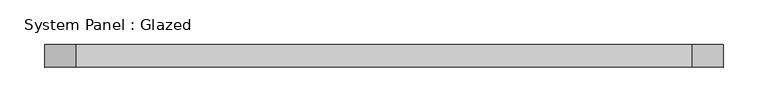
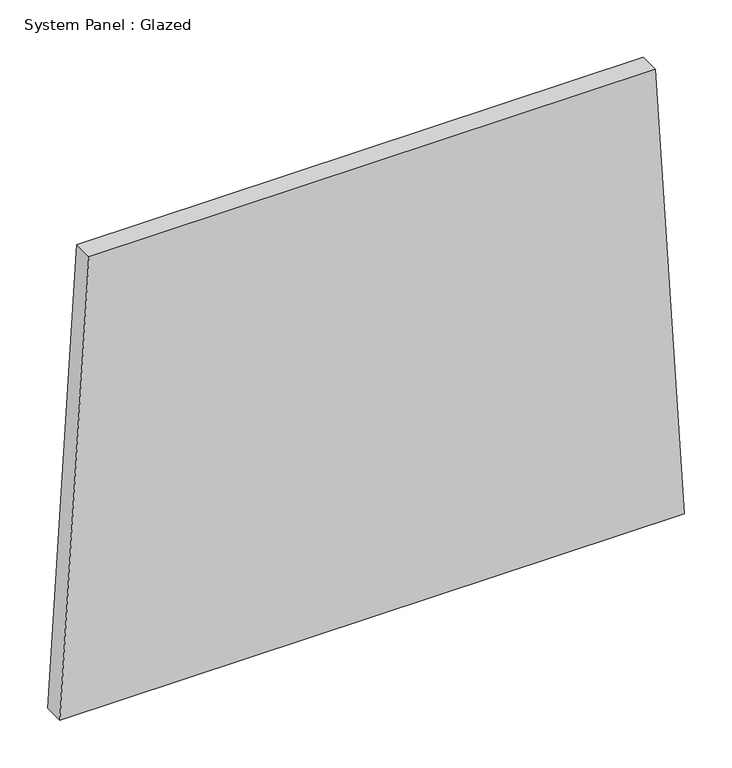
"""IFC4 building model written with IfcOpenShell, lengths in millimetres: plate geometry, System Panel : Glazed."""

from ifc_helpers import new_model, si_unit, frame, origin, place, context, project, spatial, polyline, outline, extrude, source, transform, mapped, element, save


def system_panel_glazed_93f5a557(model_context):
    return source(origin(), model_context, "Body", "SweptSolid", [
        extrude(outline(polyline([(0.0, -379.354514), (0.0, 379.354514), (583.0834285, 344.0147429), (583.0834285, -344.0147429), (0.0, -379.354514)])), frame((0.0, -44.45, 0.0), z_axis=(0.0, 1.0, 0.0), x_axis=(0.0, 0.0, 1.0)), (0.0, 0.0, 1.0), 25.4),
    ])


if __name__ == "__main__":
    model = new_model("IFC4")
    model_context = context("Model", 3, world=origin())
    ifc_project = project(units=[si_unit("LENGTHUNIT", "METRE", prefix="MILLI")], contexts=[model_context])
    site = spatial("IfcSite", under=ifc_project)
    building = spatial("IfcBuilding", under=site)
    placement = place(None, origin())
    system_panel_glazed_shape = system_panel_glazed_93f5a557(model_context)
    element("IfcPlate", 1, ObjectType="System Panel : Glazed", at=placement, inside=building, context=model_context, shape_type="MappedRepresentation", body=[
        mapped(system_panel_glazed_shape, transform((0.0, 0.0, 0.0), x_axis=(1.0, 0.0, 0.0), y_axis=(0.0, 1.0, 0.0), z_axis=(0.0, 0.0, 1.0))),
    ])
    save(model, "model.ifc")
